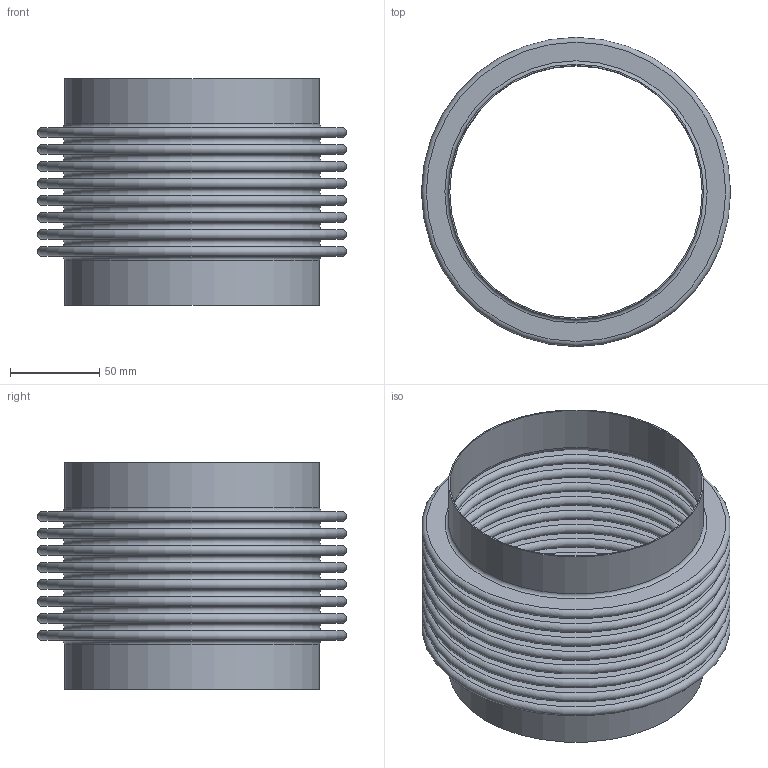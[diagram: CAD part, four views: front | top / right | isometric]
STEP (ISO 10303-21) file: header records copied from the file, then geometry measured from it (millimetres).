
FILE_DESCRIPTION(/* description */ ('STOCK BELLOWS: U.S-5-8-150S, 5.563 I.D., 6.813 O.D., 1 PLY, 22 GA (0.030 THICK), 8 CONS., 0.375 PITCH, 1.000 TANGENT. '),/* implementation_level */ '2;1');
FILE_NAME(/* name */ 'STOCK BELLOW - US-5-8-150S.stp',/* time_stamp */ '2026-07-21T13:01:41-05:00',/* author */ ('KennethB'),/* organization */ (''),/* preprocessor_version */ 'ST-DEVELOPER v20.1',/* originating_system */ 'Autodesk Inventor 2026',/* authorisation */ '');
FILE_SCHEMA (('AUTOMOTIVE_DESIGN { 1 0 10303 214 3 1 1 }'));
Length unit declared in the file: inch
Products named in the file (1): STOCK BELLOW - US-5-8-150S
Bounding box: 173.05 x 173.05 x 127 mm (x, y, z)
Volume: 124624.3 mm3; surface area: 329138.5 mm2
Topology: 3 solids, 3 shells, 76 faces, 114 edges, 77 vertices
Faces by surface type: plane 38, torus 34, cylinder 4
Full cylindrical faces by diameter (mm): 141.3 x2, 142.824 x2
Entity records: 1814 total; most frequent: DIRECTION 378, CARTESIAN_POINT 268, ORIENTED_EDGE 228, AXIS2_PLACEMENT_3D 187, EDGE_LOOP 114, EDGE_CURVE 114, CIRCLE 110, FACE_OUTER_BOUND 76
